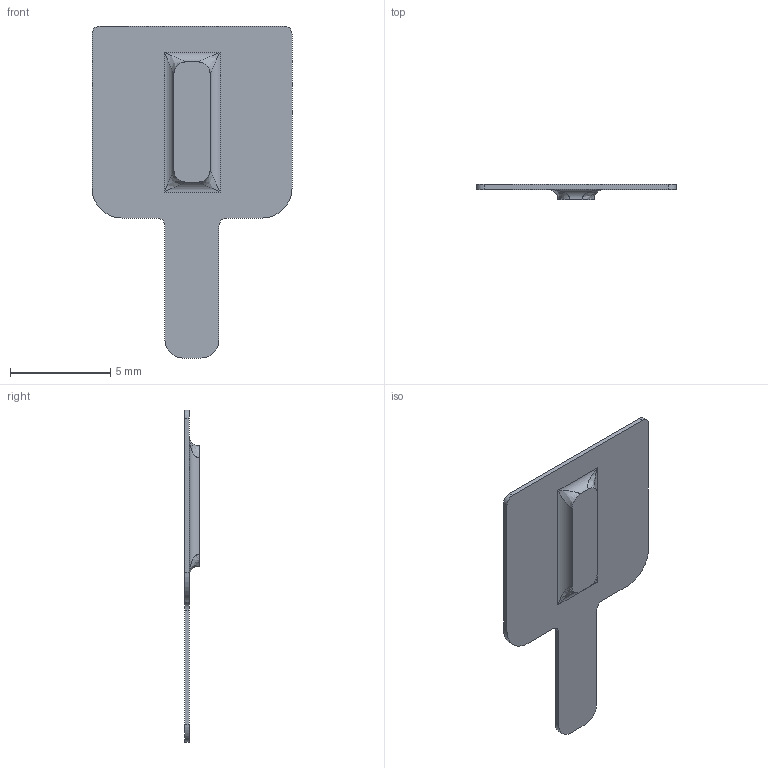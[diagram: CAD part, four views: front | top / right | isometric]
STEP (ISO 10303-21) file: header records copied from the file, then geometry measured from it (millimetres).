
FILE_DESCRIPTION((''),'2;1');
FILE_NAME('B1','2024-04-09T21:07:20',('qinghui.yi'),(''),'CREO PARAMETRIC BY PTC INC, 2019164','CREO PARAMETRIC BY PTC INC, 2019164','');
FILE_SCHEMA(('CONFIG_CONTROL_DESIGN','SHAPE_APPEARANCE_LAYERS_GROUPS'));
Length unit declared in the file: millimetre
Products named in the file (1): B1
Bounding box: 10 x 0.74 x 16.6 mm (x, y, z)
Volume: 33.5 mm3; surface area: 243.5 mm2
Topology: 1 solids, 1 shells, 27 faces, 72 edges, 52 vertices
Faces by surface type: cylinder 12, plane 11, bspline 4
Entity records: 1460 total; most frequent: CARTESIAN_POINT 408, COLOUR_RGB 312, ORIENTED_EDGE 136, DIRECTION 132, EDGE_CURVE 68, AXIS2_PLACEMENT_3D 44, VECTOR 44, LINE 44
